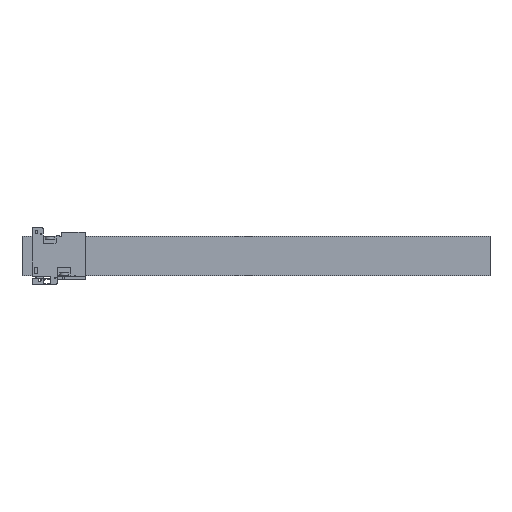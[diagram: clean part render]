
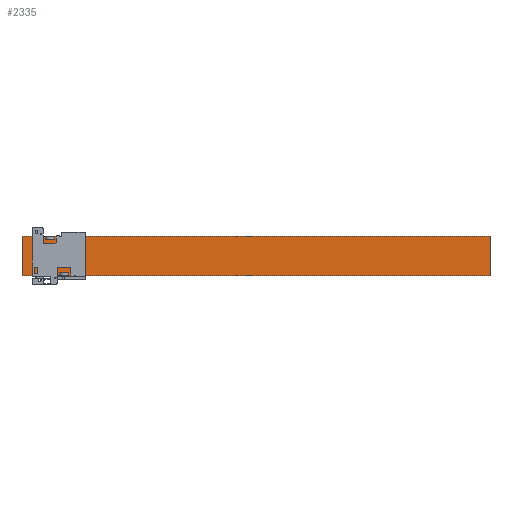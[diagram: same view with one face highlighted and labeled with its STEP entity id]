
A CAD part, top view. The second image highlights one B-rep face of the part: STEP entity #2335.
In plain terms, the highlighted planar face has unit normal (0, 0, 1).
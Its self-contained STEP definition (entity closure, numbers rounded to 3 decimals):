
#258=FACE_OUTER_BOUND('',#393,.T.);
#393=EDGE_LOOP('',(#1585,#1586,#1587,#1588));
#556=LINE('',#3497,#775);
#560=LINE('',#3505,#779);
#563=LINE('',#3511,#782);
#566=LINE('',#3516,#785);
#775=VECTOR('',#2754,10.);
#779=VECTOR('',#2760,10.);
#782=VECTOR('',#2765,10.);
#785=VECTOR('',#2770,10.);
#994=VERTEX_POINT('',#3495);
#995=VERTEX_POINT('',#3496);
#998=VERTEX_POINT('',#3504);
#1000=VERTEX_POINT('',#3510);
#1224=EDGE_CURVE('',#994,#995,#556,.T.);
#1228=EDGE_CURVE('',#995,#998,#560,.T.);
#1231=EDGE_CURVE('',#998,#1000,#563,.T.);
#1234=EDGE_CURVE('',#1000,#994,#566,.T.);
#1585=ORIENTED_EDGE('',*,*,#1234,.T.);
#1586=ORIENTED_EDGE('',*,*,#1224,.T.);
#1587=ORIENTED_EDGE('',*,*,#1228,.T.);
#1588=ORIENTED_EDGE('',*,*,#1231,.T.);
#2263=PLANE('',#2493);
#2335=ADVANCED_FACE('',(#258),#2263,.T.);
#2493=AXIS2_PLACEMENT_3D('',#3518,#2772,#2773);
#2754=DIRECTION('',(1.,0.,0.));
#2760=DIRECTION('',(0.,1.,0.));
#2765=DIRECTION('',(-1.,0.,0.));
#2770=DIRECTION('',(0.,-1.,0.));
#2772=DIRECTION('center_axis',(0.,0.,1.));
#2773=DIRECTION('ref_axis',(1.,0.,0.));
#3495=CARTESIAN_POINT('',(0.,0.,0.));
#3496=CARTESIAN_POINT('',(836.,0.,0.));
#3497=CARTESIAN_POINT('',(0.,0.,0.));
#3504=CARTESIAN_POINT('',(836.,70.,0.));
#3505=CARTESIAN_POINT('',(836.,0.,0.));
#3510=CARTESIAN_POINT('',(0.,70.,0.));
#3511=CARTESIAN_POINT('',(836.,70.,0.));
#3516=CARTESIAN_POINT('',(0.,70.,0.));
#3518=CARTESIAN_POINT('Origin',(418.,35.,0.));
